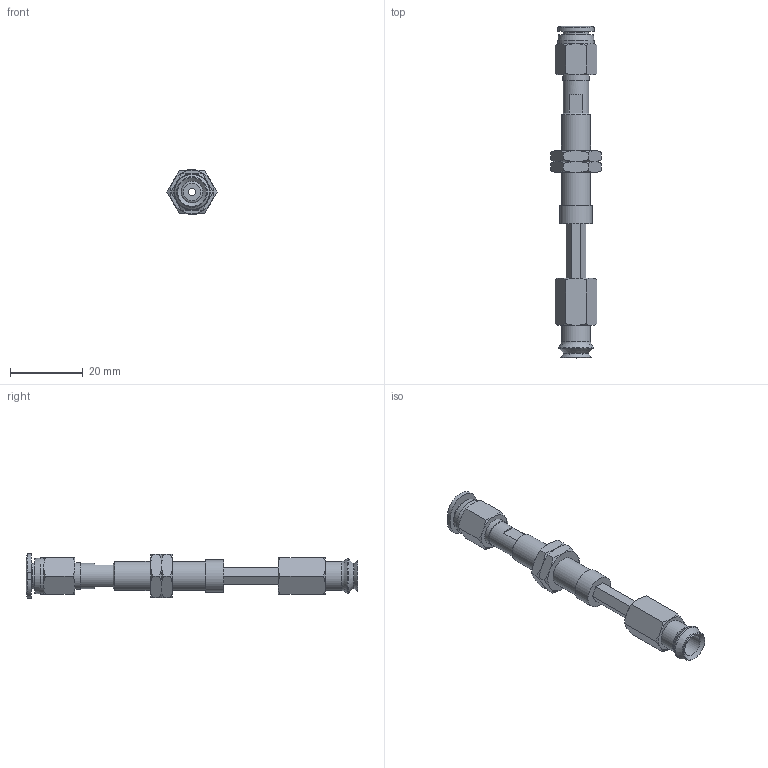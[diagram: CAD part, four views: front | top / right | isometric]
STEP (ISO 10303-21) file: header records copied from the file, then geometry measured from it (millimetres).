
FILE_DESCRIPTION(('STEP AP203'),'1');
FILE_NAME('-O.stp','2025-08-27T06:29:03',(' '),(' '),'Spatial InterOp 3D',' ',' ');
FILE_SCHEMA(('CONFIG_CONTROL_DESIGN'));
Length unit declared in the file: millimetre
Products named in the file (7): BNABPJTH-8-15-※-O; ADAPTER; NAPATH-10A-15--M; NAPJH-8-15-NUT; NAPJTH-8-15-FBODY; BPJG-8-※; PC-C_06-M5
Assembly tree (7 placements, depth 2):
  BNABPJTH-8-15-※-O
    ADAPTER
    NAPATH-10A-15--M
    NAPJH-8-15-NUT  x2
    NAPJTH-8-15-FBODY
    BPJG-8-※
    PC-C_06-M5
Bounding box: 13.86 x 91.48 x 12.4 mm (x, y, z)
Volume: 3888.7 mm3; surface area: 5819 mm2
Topology: 6 solids, 9 shells, 171 faces, 362 edges, 219 vertices
Faces by surface type: plane 68, cone 63, cylinder 22, torus 11, bspline 4, revolution 3
Full cylindrical faces by diameter (mm): 2 x2, 4 x4, 4.134 x1, 5 x1, 6 x2, 7 x2, 7.188 x2, 7.4 x1, 8 x2, 8.2 x1, 9 x1, 10 x1
Entity records: 4432 total; most frequent: CARTESIAN_POINT 1235, DIRECTION 587, ORIENTED_EDGE 516, EDGE_CURVE 260, AXIS2_PLACEMENT_3D 254, EDGE_LOOP 216, VERTEX_POINT 182, FACE_OUTER_BOUND 118
